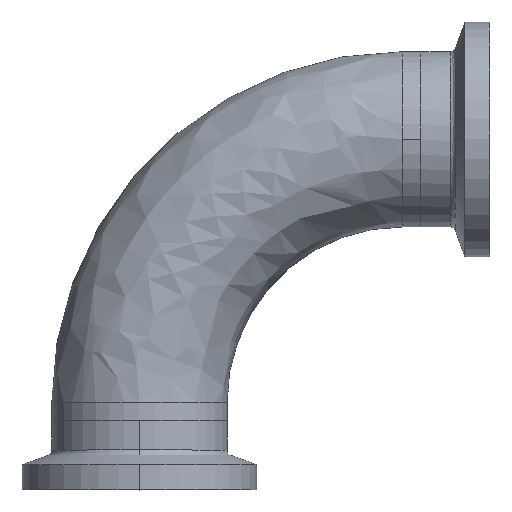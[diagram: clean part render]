
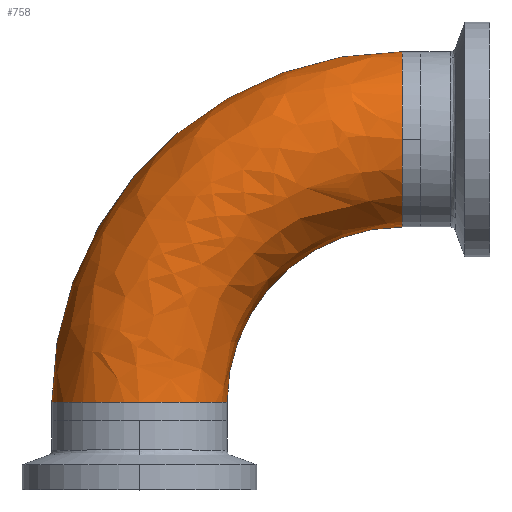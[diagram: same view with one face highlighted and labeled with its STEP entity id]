
A CAD part, top view. The second image highlights one B-rep face of the part: STEP entity #758.
In plain terms, the highlighted free-form (B-spline) face has degree [3, 3] with [4, 4] control points.
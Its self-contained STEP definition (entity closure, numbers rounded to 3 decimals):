
#41 = CARTESIAN_POINT ( 'NONE',  ( 12.7, 17.579, 25.4 ) ) ;
#55 = EDGE_CURVE ( 'NONE', #1187, #585, #1365, .T. ) ;
#60 = CARTESIAN_POINT ( 'NONE',  ( -12.7, 32.458, 0. ) ) ;
#84 = CARTESIAN_POINT ( 'NONE',  ( -12.7, 2.7, 0. ) ) ;
#142 = AXIS2_PLACEMENT_3D ( 'NONE', #670, #603, #589 ) ;
#254 = CIRCLE ( 'NONE', #2049, 12.7 ) ;
#294 = AXIS2_PLACEMENT_3D ( 'NONE', #1872, #1811, #1776 ) ;
#305 = CARTESIAN_POINT ( 'NONE',  ( 38.1, 28.1, 0. ) ) ;
#416 = ORIENTED_EDGE ( 'NONE', *, *, #1780, .T. ) ;
#471 = CARTESIAN_POINT ( 'NONE',  ( 23.221, 28.1, 25.4 ) ) ;
#514 = CIRCLE ( 'NONE', #142, 12.7 ) ;
#573 = EDGE_CURVE ( 'NONE', #1242, #585, #1152, .T. ) ;
#585 = VERTEX_POINT ( 'NONE', #657 ) ;
#589 = DIRECTION ( 'NONE',  ( -1., 0., 0. ) ) ;
#603 = DIRECTION ( 'NONE',  ( 0., 1., 0. ) ) ;
#657 = CARTESIAN_POINT ( 'NONE',  ( 38.1, 53.5, 0. ) ) ;
#670 = CARTESIAN_POINT ( 'NONE',  ( 0., 2.7, 0. ) ) ;
#680 = EDGE_CURVE ( 'NONE', #1242, #1897, #514, .T. ) ;
#688 = CARTESIAN_POINT ( 'NONE',  ( 23.221, 28.1, 0. ) ) ;
#742 = CARTESIAN_POINT ( 'NONE',  ( 38.1, 2.7, 0. ) ) ;
#750 = DIRECTION ( 'NONE',  ( 0., 0., -1. ) ) ;
#758 = ADVANCED_FACE ( 'NONE', ( #886 ), #1424, .T. ) ;
#775 = CARTESIAN_POINT ( 'NONE',  ( 38.1, 28.1, 25.4 ) ) ;
#886 = FACE_OUTER_BOUND ( 'NONE', #901, .T. ) ;
#901 = EDGE_LOOP ( 'NONE', ( #1263, #416, #1785, #1097, #1958 ) ) ;
#977 = CARTESIAN_POINT ( 'NONE',  ( 12.7, 17.579, 0. ) ) ;
#1075 = DIRECTION ( 'NONE',  ( -1., 0., 0. ) ) ;
#1088 = VERTEX_POINT ( 'NONE', #305 ) ;
#1097 = ORIENTED_EDGE ( 'NONE', *, *, #55, .T. ) ;
#1152 = CIRCLE ( 'NONE', #294, 50.8 ) ;
#1187 = VERTEX_POINT ( 'NONE', #2048 ) ;
#1242 = VERTEX_POINT ( 'NONE', #1913 ) ;
#1263 = ORIENTED_EDGE ( 'NONE', *, *, #680, .T. ) ;
#1318 = CARTESIAN_POINT ( 'NONE',  ( 12.7, 2.7, 0. ) ) ;
#1365 = CIRCLE ( 'NONE', #1822, 12.7 ) ;
#1424 =( BOUNDED_SURFACE ( )  B_SPLINE_SURFACE ( 3, 3, ( 
 ( #84, #60, #1661, #1485 ),
 ( #1525, #1789, #1620, #1474 ),
 ( #1807, #41, #471, #775 ),
 ( #1318, #977, #688, #1798 ) ),
 .UNSPECIFIED., .F., .F., .F. ) 
 B_SPLINE_SURFACE_WITH_KNOTS ( ( 4, 4 ),
 ( 4, 4 ),
 ( 0., 1. ),
 ( 0., 1. ),
 .UNSPECIFIED. ) 
 GEOMETRIC_REPRESENTATION_ITEM ( )  RATIONAL_B_SPLINE_SURFACE ( (
 ( 1., 0.805, 0.805, 1.),
 ( 0.333, 0.268, 0.268, 0.333),
 ( 0.333, 0.268, 0.268, 0.333),
 ( 1., 0.805, 0.805, 1.) ) ) 
 REPRESENTATION_ITEM ( '' )  SURFACE ( )  );
#1474 = CARTESIAN_POINT ( 'NONE',  ( 38.1, 53.5, 25.4 ) ) ;
#1484 = DIRECTION ( 'NONE',  ( 0., 1., 0. ) ) ;
#1485 = CARTESIAN_POINT ( 'NONE',  ( 38.1, 53.5, 0. ) ) ;
#1525 = CARTESIAN_POINT ( 'NONE',  ( -12.7, 2.7, 25.4 ) ) ;
#1527 = CARTESIAN_POINT ( 'NONE',  ( 12.7, 2.7, 0. ) ) ;
#1580 = EDGE_CURVE ( 'NONE', #1088, #1187, #254, .T. ) ;
#1620 = CARTESIAN_POINT ( 'NONE',  ( 8.342, 53.5, 25.4 ) ) ;
#1634 = DIRECTION ( 'NONE',  ( -1., 0., 0. ) ) ;
#1641 = CARTESIAN_POINT ( 'NONE',  ( 38.1, 40.8, 0. ) ) ;
#1661 = CARTESIAN_POINT ( 'NONE',  ( 8.342, 53.5, 0. ) ) ;
#1776 = DIRECTION ( 'NONE',  ( -1., 0., 0. ) ) ;
#1780 = EDGE_CURVE ( 'NONE', #1897, #1088, #1791, .T. ) ;
#1785 = ORIENTED_EDGE ( 'NONE', *, *, #1580, .T. ) ;
#1789 = CARTESIAN_POINT ( 'NONE',  ( -12.7, 32.458, 25.4 ) ) ;
#1791 = CIRCLE ( 'NONE', #1818, 25.4 ) ;
#1798 = CARTESIAN_POINT ( 'NONE',  ( 38.1, 28.1, 0. ) ) ;
#1807 = CARTESIAN_POINT ( 'NONE',  ( 12.7, 2.7, 25.4 ) ) ;
#1811 = DIRECTION ( 'NONE',  ( 0., 0., -1. ) ) ;
#1818 = AXIS2_PLACEMENT_3D ( 'NONE', #742, #750, #1075 ) ;
#1822 = AXIS2_PLACEMENT_3D ( 'NONE', #1925, #1943, #1910 ) ;
#1872 = CARTESIAN_POINT ( 'NONE',  ( 38.1, 2.7, 0. ) ) ;
#1897 = VERTEX_POINT ( 'NONE', #1527 ) ;
#1910 = DIRECTION ( 'NONE',  ( 0., 1., 0. ) ) ;
#1913 = CARTESIAN_POINT ( 'NONE',  ( -12.7, 2.7, 0. ) ) ;
#1925 = CARTESIAN_POINT ( 'NONE',  ( 38.1, 40.8, 0. ) ) ;
#1943 = DIRECTION ( 'NONE',  ( -1., 0., 0. ) ) ;
#1958 = ORIENTED_EDGE ( 'NONE', *, *, #573, .F. ) ;
#2048 = CARTESIAN_POINT ( 'NONE',  ( 38.1, 40.8, 12.7 ) ) ;
#2049 = AXIS2_PLACEMENT_3D ( 'NONE', #1641, #1634, #1484 ) ;
